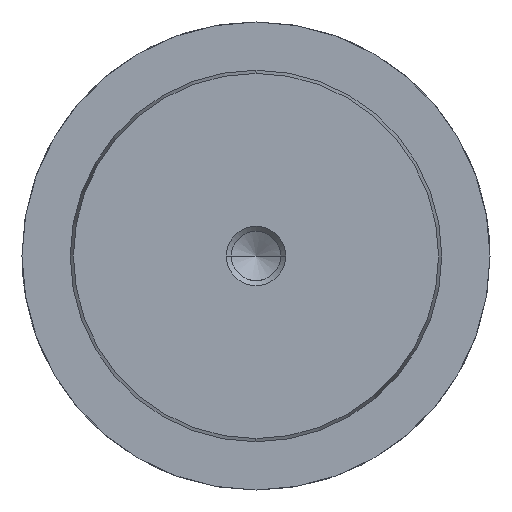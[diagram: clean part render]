
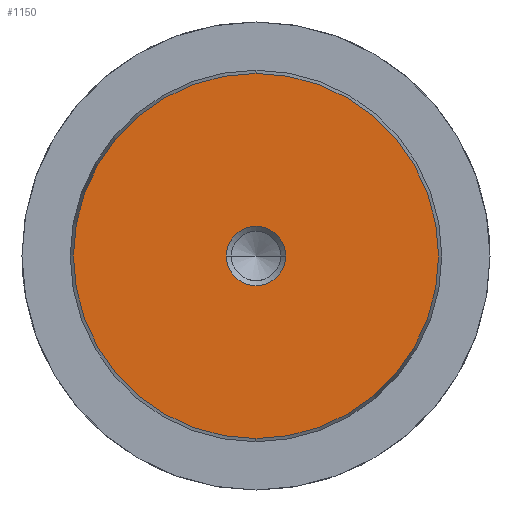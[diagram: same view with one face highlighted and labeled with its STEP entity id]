
A CAD part, left-side view. The second image highlights one B-rep face of the part: STEP entity #1150.
In plain terms, the highlighted planar face has unit normal (-1, 0, 0).
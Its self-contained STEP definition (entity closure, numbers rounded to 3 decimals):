
#1064=CARTESIAN_POINT('Vertex',(0.,0.,-24.578)) ;
#1067=CARTESIAN_POINT('Axis2P3D Location',(0.,0.,0.)) ;
#1071=CARTESIAN_POINT('Vertex',(0.,24.578,0.)) ;
#1074=CARTESIAN_POINT('Axis2P3D Location',(0.,0.,0.)) ;
#1078=CARTESIAN_POINT('Vertex',(0.,0.,24.578)) ;
#1100=CARTESIAN_POINT('Axis2P3D Location',(0.,0.,0.)) ;
#1104=CARTESIAN_POINT('Vertex',(0.,-24.578,0.)) ;
#1107=CARTESIAN_POINT('Axis2P3D Location',(0.,0.,0.)) ;
#1121=CARTESIAN_POINT('Axis2P3D Location',(0.,0.,0.)) ;
#1132=CARTESIAN_POINT('Axis2P3D Location',(0.,0.,0.)) ;
#1136=CARTESIAN_POINT('Vertex',(0.,4.,0.)) ;
#1138=CARTESIAN_POINT('Vertex',(0.,-4.,0.)) ;
#1141=CARTESIAN_POINT('Axis2P3D Location',(0.,0.,0.)) ;
#1068=DIRECTION('Axis2P3D Direction',(1.,0.,-0.)) ;
#1075=DIRECTION('Axis2P3D Direction',(1.,0.,-0.)) ;
#1101=DIRECTION('Axis2P3D Direction',(1.,0.,-0.)) ;
#1108=DIRECTION('Axis2P3D Direction',(1.,0.,-0.)) ;
#1122=DIRECTION('Axis2P3D Direction',(1.,0.,-0.)) ;
#1123=DIRECTION('Axis2P3D XDirection',(-0.,0.,-1.)) ;
#1133=DIRECTION('Axis2P3D Direction',(1.,0.,-0.)) ;
#1142=DIRECTION('Axis2P3D Direction',(1.,0.,-0.)) ;
#1069=AXIS2_PLACEMENT_3D('Circle Axis2P3D',#1067,#1068,$) ;
#1076=AXIS2_PLACEMENT_3D('Circle Axis2P3D',#1074,#1075,$) ;
#1102=AXIS2_PLACEMENT_3D('Circle Axis2P3D',#1100,#1101,$) ;
#1109=AXIS2_PLACEMENT_3D('Circle Axis2P3D',#1107,#1108,$) ;
#1124=AXIS2_PLACEMENT_3D('Plane Axis2P3D',#1121,#1122,#1123) ;
#1134=AXIS2_PLACEMENT_3D('Circle Axis2P3D',#1132,#1133,$) ;
#1143=AXIS2_PLACEMENT_3D('Circle Axis2P3D',#1141,#1142,$) ;
#1127=ORIENTED_EDGE('',*,*,#1073,.F.) ;
#1128=ORIENTED_EDGE('',*,*,#1111,.F.) ;
#1129=ORIENTED_EDGE('',*,*,#1106,.F.) ;
#1130=ORIENTED_EDGE('',*,*,#1080,.F.) ;
#1147=ORIENTED_EDGE('',*,*,#1140,.T.) ;
#1148=ORIENTED_EDGE('',*,*,#1145,.T.) ;
#1149=FACE_BOUND('',#1146,.T.) ;
#1150=ADVANCED_FACE('718-50x315',(#1131,#1149),#1125,.F.) ;
#1070=CIRCLE('generated circle',#1069,24.578) ;
#1077=CIRCLE('generated circle',#1076,24.578) ;
#1103=CIRCLE('generated circle',#1102,24.578) ;
#1110=CIRCLE('generated circle',#1109,24.578) ;
#1135=CIRCLE('generated circle',#1134,4.) ;
#1144=CIRCLE('generated circle',#1143,4.) ;
#1073=EDGE_CURVE('',#1065,#1072,#1070,.T.) ;
#1080=EDGE_CURVE('',#1072,#1079,#1077,.T.) ;
#1106=EDGE_CURVE('',#1079,#1105,#1103,.T.) ;
#1111=EDGE_CURVE('',#1105,#1065,#1110,.T.) ;
#1140=EDGE_CURVE('',#1137,#1139,#1135,.T.) ;
#1145=EDGE_CURVE('',#1139,#1137,#1144,.T.) ;
#1126=EDGE_LOOP('',(#1127,#1128,#1129,#1130)) ;
#1146=EDGE_LOOP('',(#1147,#1148)) ;
#1131=FACE_OUTER_BOUND('',#1126,.T.) ;
#1125=PLANE('Plane',#1124) ;
#1065=VERTEX_POINT('',#1064) ;
#1072=VERTEX_POINT('',#1071) ;
#1079=VERTEX_POINT('',#1078) ;
#1105=VERTEX_POINT('',#1104) ;
#1137=VERTEX_POINT('',#1136) ;
#1139=VERTEX_POINT('',#1138) ;
